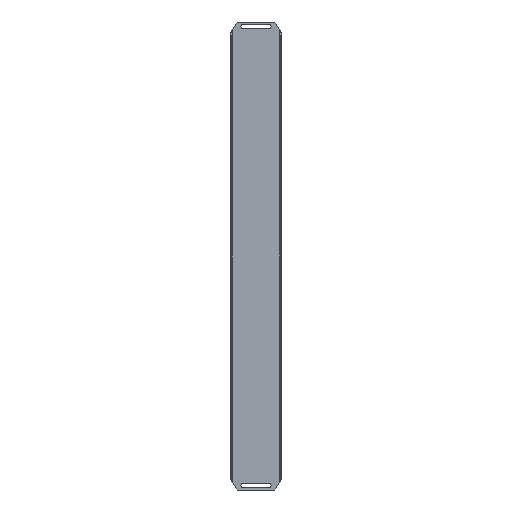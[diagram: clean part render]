
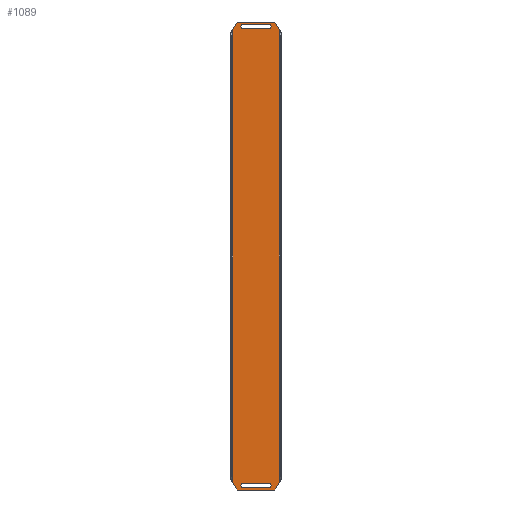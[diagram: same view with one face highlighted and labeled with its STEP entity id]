
A CAD part, front view. The second image highlights one B-rep face of the part: STEP entity #1089.
In plain terms, the highlighted planar face has unit normal (0, -1, 0).
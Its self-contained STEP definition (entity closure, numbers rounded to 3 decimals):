
#12 = CARTESIAN_POINT ( 'NONE',  ( -15.55, -1.2, -307.5 ) ) ;
#18 = FACE_BOUND ( 'NONE', #768, .T. ) ;
#23 = ORIENTED_EDGE ( 'NONE', *, *, #1269, .T. ) ;
#57 = AXIS2_PLACEMENT_3D ( 'NONE', #403, #305, #99 ) ;
#75 = VECTOR ( 'NONE', #382, 1000. ) ;
#99 = DIRECTION ( 'NONE',  ( 0., 0., 1. ) ) ;
#105 = LINE ( 'NONE', #978, #75 ) ;
#107 = VERTEX_POINT ( 'NONE', #1062 ) ;
#126 = ORIENTED_EDGE ( 'NONE', *, *, #1091, .F. ) ;
#137 = LINE ( 'NONE', #635, #736 ) ;
#139 = AXIS2_PLACEMENT_3D ( 'NONE', #1140, #667, #861 ) ;
#143 = ORIENTED_EDGE ( 'NONE', *, *, #788, .F. ) ;
#152 = LINE ( 'NONE', #479, #621 ) ;
#154 = CARTESIAN_POINT ( 'NONE',  ( -29.9, -1.2, 299.781 ) ) ;
#159 = ORIENTED_EDGE ( 'NONE', *, *, #816, .T. ) ;
#168 = VECTOR ( 'NONE', #1029, 1000. ) ;
#201 = FACE_OUTER_BOUND ( 'NONE', #1275, .T. ) ;
#203 = VECTOR ( 'NONE', #711, 1000. ) ;
#207 = EDGE_CURVE ( 'NONE', #872, #752, #1209, .T. ) ;
#228 = DIRECTION ( 'NONE',  ( 1., 0., 0. ) ) ;
#231 = AXIS2_PLACEMENT_3D ( 'NONE', #866, #1260, #873 ) ;
#233 = DIRECTION ( 'NONE',  ( 0., 0., -1. ) ) ;
#237 = VERTEX_POINT ( 'NONE', #904 ) ;
#246 = CARTESIAN_POINT ( 'NONE',  ( 26.145, -1.2, 310.25 ) ) ;
#248 = DIRECTION ( 'NONE',  ( 0., 0., 1. ) ) ;
#250 = LINE ( 'NONE', #365, #972 ) ;
#254 = CARTESIAN_POINT ( 'NONE',  ( 17.95, -1.2, 301. ) ) ;
#258 = CARTESIAN_POINT ( 'NONE',  ( -15.55, -1.2, 307.5 ) ) ;
#276 = EDGE_CURVE ( 'NONE', #752, #107, #472, .T. ) ;
#305 = DIRECTION ( 'NONE',  ( 0., 1., 0. ) ) ;
#307 = CARTESIAN_POINT ( 'NONE',  ( 32.3, -1.2, -299.781 ) ) ;
#331 = CARTESIAN_POINT ( 'NONE',  ( 32.3, -1.2, 299.781 ) ) ;
#333 = CARTESIAN_POINT ( 'NONE',  ( -23.745, -1.2, -310.25 ) ) ;
#348 = EDGE_CURVE ( 'NONE', #1056, #872, #840, .T. ) ;
#365 = CARTESIAN_POINT ( 'NONE',  ( -29.9, -1.2, -299.781 ) ) ;
#370 = CARTESIAN_POINT ( 'NONE',  ( 26.145, -1.2, -310.25 ) ) ;
#376 = VECTOR ( 'NONE', #228, 1000. ) ;
#382 = DIRECTION ( 'NONE',  ( -1., 0., 0. ) ) ;
#384 = PLANE ( 'NONE',  #231 ) ;
#403 = CARTESIAN_POINT ( 'NONE',  ( 17.95, -1.2, -304.25 ) ) ;
#404 = LINE ( 'NONE', #520, #805 ) ;
#405 = VECTOR ( 'NONE', #233, 1000. ) ;
#406 = DIRECTION ( 'NONE',  ( -0.507, 0., 0.862 ) ) ;
#424 = VECTOR ( 'NONE', #854, 1000. ) ;
#431 = EDGE_CURVE ( 'NONE', #237, #779, #529, .T. ) ;
#440 = CARTESIAN_POINT ( 'NONE',  ( -15.55, -1.2, -304.25 ) ) ;
#448 = ORIENTED_EDGE ( 'NONE', *, *, #276, .T. ) ;
#472 = LINE ( 'NONE', #12, #203 ) ;
#479 = CARTESIAN_POINT ( 'NONE',  ( -15.55, -1.2, 307.5 ) ) ;
#492 = ORIENTED_EDGE ( 'NONE', *, *, #1001, .T. ) ;
#506 = VERTEX_POINT ( 'NONE', #258 ) ;
#512 = CIRCLE ( 'NONE', #850, 3.25 ) ;
#515 = VECTOR ( 'NONE', #934, 1000. ) ;
#517 = VERTEX_POINT ( 'NONE', #865 ) ;
#520 = CARTESIAN_POINT ( 'NONE',  ( 32.3, -1.2, 299.781 ) ) ;
#522 = EDGE_CURVE ( 'NONE', #506, #901, #152, .T. ) ;
#529 = LINE ( 'NONE', #543, #515 ) ;
#543 = CARTESIAN_POINT ( 'NONE',  ( -29.9, -1.2, -299.781 ) ) ;
#546 = VERTEX_POINT ( 'NONE', #1059 ) ;
#549 = CARTESIAN_POINT ( 'NONE',  ( 17.95, -1.2, 307.5 ) ) ;
#577 = DIRECTION ( 'NONE',  ( 1., 0., 0. ) ) ;
#610 = ORIENTED_EDGE ( 'NONE', *, *, #870, .F. ) ;
#621 = VECTOR ( 'NONE', #577, 1000. ) ;
#626 = EDGE_LOOP ( 'NONE', ( #492, #935, #159, #812 ) ) ;
#635 = CARTESIAN_POINT ( 'NONE',  ( -29.9, -1.2, 310.25 ) ) ;
#650 = EDGE_CURVE ( 'NONE', #886, #920, #105, .T. ) ;
#655 = CARTESIAN_POINT ( 'NONE',  ( -15.55, -1.2, 301. ) ) ;
#662 = ORIENTED_EDGE ( 'NONE', *, *, #1034, .T. ) ;
#667 = DIRECTION ( 'NONE',  ( 0., 1., 0. ) ) ;
#709 = ORIENTED_EDGE ( 'NONE', *, *, #763, .F. ) ;
#711 = DIRECTION ( 'NONE',  ( -1., 0., 0. ) ) ;
#736 = VECTOR ( 'NONE', #1215, 1000. ) ;
#744 = EDGE_CURVE ( 'NONE', #107, #1056, #512, .T. ) ;
#750 = DIRECTION ( 'NONE',  ( 0., 1., 0. ) ) ;
#752 = VERTEX_POINT ( 'NONE', #801 ) ;
#761 = ORIENTED_EDGE ( 'NONE', *, *, #207, .T. ) ;
#763 = EDGE_CURVE ( 'NONE', #1250, #874, #137, .T. ) ;
#768 = EDGE_LOOP ( 'NONE', ( #797, #1115, #761, #448 ) ) ;
#775 = CARTESIAN_POINT ( 'NONE',  ( -15.55, -1.2, -301. ) ) ;
#779 = VERTEX_POINT ( 'NONE', #333 ) ;
#788 = EDGE_CURVE ( 'NONE', #546, #979, #991, .T. ) ;
#794 = ORIENTED_EDGE ( 'NONE', *, *, #1177, .T. ) ;
#797 = ORIENTED_EDGE ( 'NONE', *, *, #744, .T. ) ;
#801 = CARTESIAN_POINT ( 'NONE',  ( 17.95, -1.2, -307.5 ) ) ;
#805 = VECTOR ( 'NONE', #406, 1000. ) ;
#812 = ORIENTED_EDGE ( 'NONE', *, *, #650, .T. ) ;
#816 = EDGE_CURVE ( 'NONE', #901, #886, #899, .T. ) ;
#828 = ORIENTED_EDGE ( 'NONE', *, *, #431, .T. ) ;
#840 = LINE ( 'NONE', #1025, #376 ) ;
#850 = AXIS2_PLACEMENT_3D ( 'NONE', #440, #1217, #919 ) ;
#854 = DIRECTION ( 'NONE',  ( -0.507, 0., -0.862 ) ) ;
#861 = DIRECTION ( 'NONE',  ( 0., 0., 1. ) ) ;
#864 = CARTESIAN_POINT ( 'NONE',  ( -29.9, -1.2, -310.25 ) ) ;
#865 = CARTESIAN_POINT ( 'NONE',  ( -29.9, -1.2, 299.781 ) ) ;
#866 = CARTESIAN_POINT ( 'NONE',  ( 0., -1.2, 0. ) ) ;
#870 = EDGE_CURVE ( 'NONE', #237, #517, #250, .T. ) ;
#872 = VERTEX_POINT ( 'NONE', #957 ) ;
#873 = DIRECTION ( 'NONE',  ( 0., 0., -1. ) ) ;
#874 = VERTEX_POINT ( 'NONE', #246 ) ;
#881 = FACE_BOUND ( 'NONE', #626, .T. ) ;
#886 = VERTEX_POINT ( 'NONE', #254 ) ;
#898 = VECTOR ( 'NONE', #1065, 1000. ) ;
#899 = CIRCLE ( 'NONE', #139, 3.25 ) ;
#901 = VERTEX_POINT ( 'NONE', #549 ) ;
#904 = CARTESIAN_POINT ( 'NONE',  ( -29.9, -1.2, -299.781 ) ) ;
#919 = DIRECTION ( 'NONE',  ( 0., 0., 1. ) ) ;
#920 = VERTEX_POINT ( 'NONE', #655 ) ;
#934 = DIRECTION ( 'NONE',  ( 0.507, 0., -0.862 ) ) ;
#935 = ORIENTED_EDGE ( 'NONE', *, *, #522, .T. ) ;
#957 = CARTESIAN_POINT ( 'NONE',  ( 17.95, -1.2, -301. ) ) ;
#972 = VECTOR ( 'NONE', #1253, 1000. ) ;
#978 = CARTESIAN_POINT ( 'NONE',  ( -15.55, -1.2, 301. ) ) ;
#979 = VERTEX_POINT ( 'NONE', #1242 ) ;
#980 = AXIS2_PLACEMENT_3D ( 'NONE', #1148, #750, #248 ) ;
#989 = LINE ( 'NONE', #307, #168 ) ;
#991 = LINE ( 'NONE', #331, #405 ) ;
#1001 = EDGE_CURVE ( 'NONE', #920, #506, #1005, .T. ) ;
#1005 = CIRCLE ( 'NONE', #980, 3.25 ) ;
#1025 = CARTESIAN_POINT ( 'NONE',  ( -15.55, -1.2, -301. ) ) ;
#1029 = DIRECTION ( 'NONE',  ( 0.507, 0., 0.862 ) ) ;
#1034 = EDGE_CURVE ( 'NONE', #1250, #517, #1224, .T. ) ;
#1056 = VERTEX_POINT ( 'NONE', #775 ) ;
#1059 = CARTESIAN_POINT ( 'NONE',  ( 32.3, -1.2, 299.781 ) ) ;
#1062 = CARTESIAN_POINT ( 'NONE',  ( -15.55, -1.2, -307.5 ) ) ;
#1065 = DIRECTION ( 'NONE',  ( -1., 0., 0. ) ) ;
#1089 = ADVANCED_FACE ( 'NONE', ( #881, #18, #201 ), #384, .T. ) ;
#1091 = EDGE_CURVE ( 'NONE', #1132, #779, #1127, .T. ) ;
#1115 = ORIENTED_EDGE ( 'NONE', *, *, #348, .T. ) ;
#1127 = LINE ( 'NONE', #864, #898 ) ;
#1132 = VERTEX_POINT ( 'NONE', #370 ) ;
#1140 = CARTESIAN_POINT ( 'NONE',  ( 17.95, -1.2, 304.25 ) ) ;
#1148 = CARTESIAN_POINT ( 'NONE',  ( -15.55, -1.2, 304.25 ) ) ;
#1177 = EDGE_CURVE ( 'NONE', #546, #874, #404, .T. ) ;
#1201 = CARTESIAN_POINT ( 'NONE',  ( -23.745, -1.2, 310.25 ) ) ;
#1209 = CIRCLE ( 'NONE', #57, 3.25 ) ;
#1215 = DIRECTION ( 'NONE',  ( 1., 0., 0. ) ) ;
#1217 = DIRECTION ( 'NONE',  ( 0., 1., 0. ) ) ;
#1224 = LINE ( 'NONE', #154, #424 ) ;
#1242 = CARTESIAN_POINT ( 'NONE',  ( 32.3, -1.2, -299.781 ) ) ;
#1250 = VERTEX_POINT ( 'NONE', #1201 ) ;
#1253 = DIRECTION ( 'NONE',  ( 0., 0., 1. ) ) ;
#1260 = DIRECTION ( 'NONE',  ( 0., -1., 0. ) ) ;
#1269 = EDGE_CURVE ( 'NONE', #1132, #979, #989, .T. ) ;
#1275 = EDGE_LOOP ( 'NONE', ( #709, #662, #610, #828, #126, #23, #143, #794 ) ) ;
